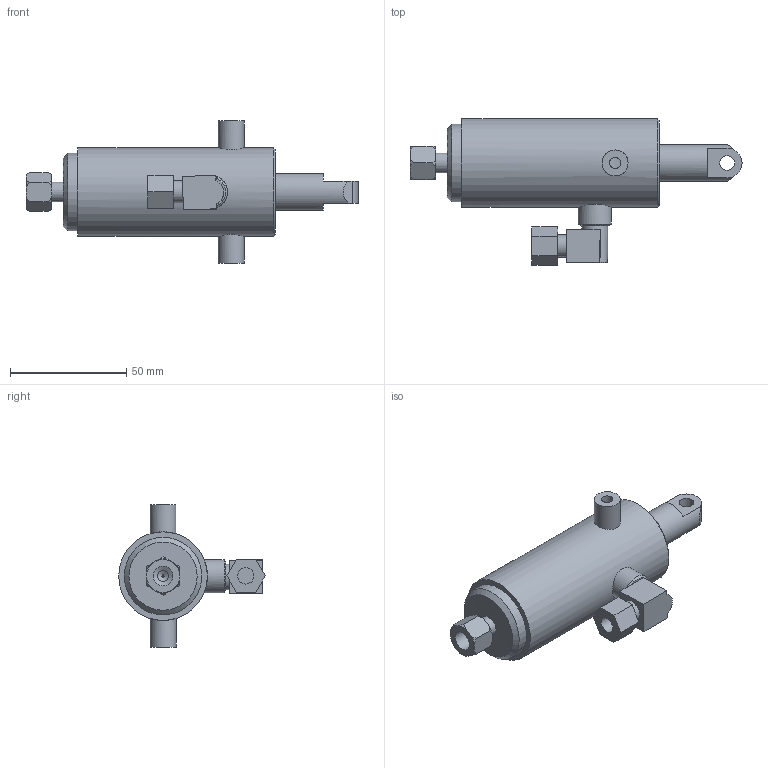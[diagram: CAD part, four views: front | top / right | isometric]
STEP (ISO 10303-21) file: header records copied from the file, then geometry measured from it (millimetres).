
FILE_DESCRIPTION(/* description */ (''),/* implementation_level */ '2;1');
FILE_NAME(/* name */ 'C:\Users\Nick\Desktop\Cy\CY-201-SP-T\3D\cy-201-SP-T.stp',/* time_stamp */ '2015-11-23T16:36:09-05:00',/* author */ ('Nick'),/* organization */ (''),/* preprocessor_version */ 'ST-DEVELOPER v16.1',/* originating_system */ 'AutoCAD Mechanical',/* authorisation */ '');
FILE_SCHEMA (('AUTOMOTIVE_DESIGN { 1 0 10303 214 3 1 1 }'));
Length unit declared in the file: inch
Products named in the file (2): R-Ring 32; Product
Assembly tree (2 placements, depth 2):
  Product
    R-Ring 32  x2
Bounding box: 142.72 x 63.01 x 61.1 mm (x, y, z)
Volume: 76642 mm3; surface area: 44902.9 mm2
Topology: 10 solids, 10 shells, 182 faces, 403 edges, 276 vertices
Faces by surface type: plane 69, cylinder 68, cone 24, torus 21
Full cylindrical faces by diameter (mm): 0.94 x1, 1.9 x4, 4.775 x2, 4.851 x2, 6.35 x1, 7.051 x1, 7.056 x1, 8.56 x2, 8.636 x1, 9.525 x1, 11.074 x1, 11.112 x2, 12.7 x1, 14.287 x1, 15.875 x3, 20.498 x1, 20.599 x1, 25.298 x3, 25.806 x1, 31.521 x2, 31.674 x1, 31.75 x5, 33.312 x1, 34.138 x1, 38.1 x1
Entity records: 4853 total; most frequent: CARTESIAN_POINT 1313, DIRECTION 729, ORIENTED_EDGE 610, AXIS2_PLACEMENT_3D 321, EDGE_CURVE 305, EDGE_LOOP 261, VERTEX_POINT 228, FACE_OUTER_BOUND 170
